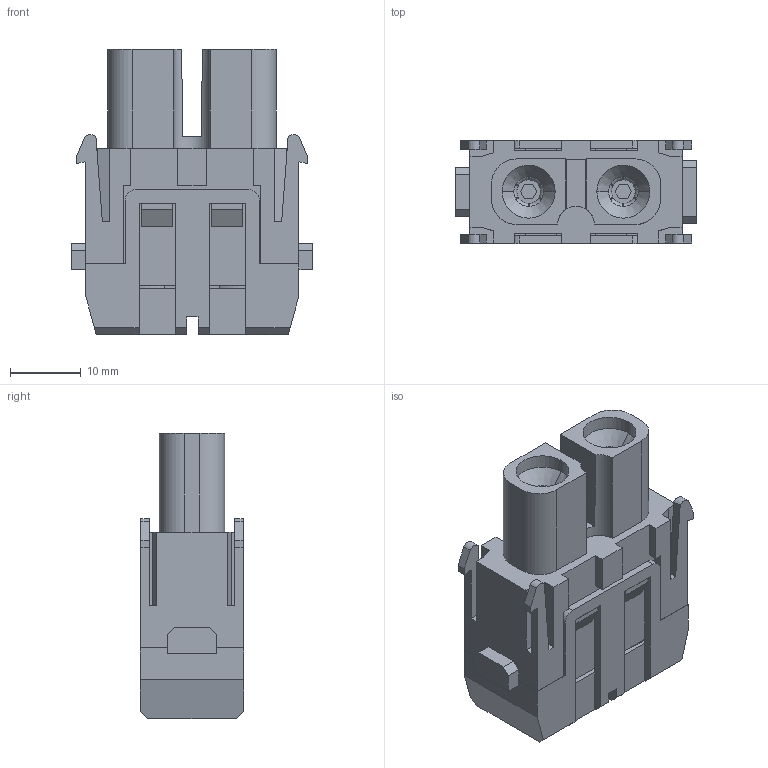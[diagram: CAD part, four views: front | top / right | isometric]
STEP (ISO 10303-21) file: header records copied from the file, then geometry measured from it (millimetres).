
FILE_DESCRIPTION (( 'STEP AP203' ), '1' );
FILE_NAME ('366455_HMK-002.1-F.STEP', '2025-09-19T13:57:07', ( '' ), ( '' ), 'SwSTEP 2.0', 'SolidWorks 2018', '' );
FILE_SCHEMA (( 'CONFIG_CONTROL_DESIGN' ));
Length unit declared in the file: millimetre
Products named in the file (1): 366455_HMK-002.1-F
Bounding box: 34.1 x 14.59 x 40.35 mm (x, y, z)
Volume: 10538.3 mm3; surface area: 9401.5 mm2
Topology: 1 solids, 1 shells, 503 faces, 1457 edges, 959 vertices
Faces by surface type: plane 318, cylinder 76, bspline 43, cone 42, torus 24
Entity records: 17807 total; most frequent: CARTESIAN_POINT 5070, ORIENTED_EDGE 2914, DIRECTION 2356, EDGE_CURVE 1457, VERTEX_POINT 959, LINE 810, VECTOR 810, AXIS2_PLACEMENT_3D 773
